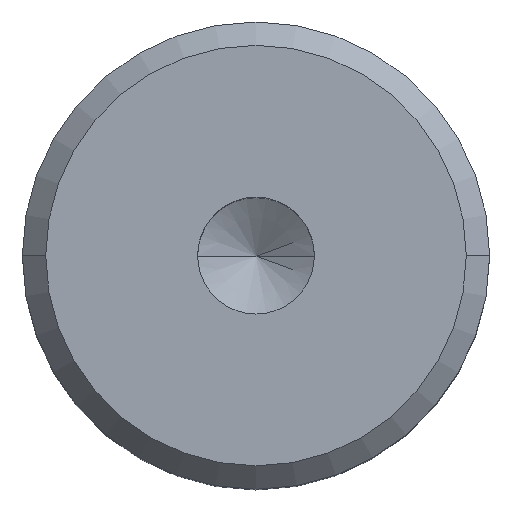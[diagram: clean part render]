
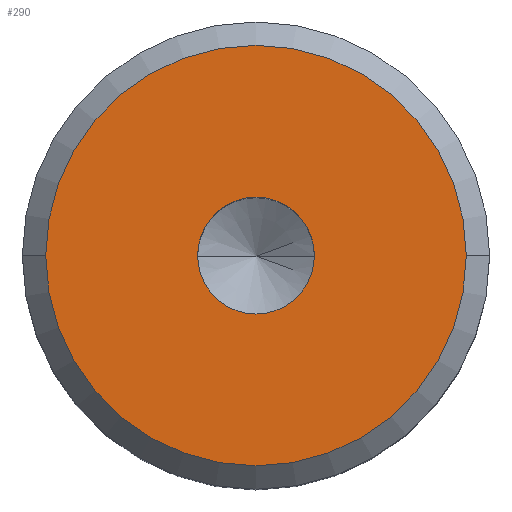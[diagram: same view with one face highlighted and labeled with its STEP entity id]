
A CAD part, top view. The second image highlights one B-rep face of the part: STEP entity #290.
In plain terms, the highlighted planar face has unit normal (0, 0, 1).
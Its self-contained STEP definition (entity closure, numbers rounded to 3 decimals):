
#1 = AXIS2_PLACEMENT_3D ( 'NONE', #427, #349, #261 ) ;
#8 = AXIS2_PLACEMENT_3D ( 'NONE', #299, #302, #196 ) ;
#22 = DIRECTION ( 'NONE',  ( 0., 0., 1. ) ) ;
#30 = CIRCLE ( 'NONE', #1, 9. ) ;
#34 = CARTESIAN_POINT ( 'NONE',  ( 9., 0., 20. ) ) ;
#49 = CARTESIAN_POINT ( 'NONE',  ( 0., 0., 20. ) ) ;
#105 = EDGE_LOOP ( 'NONE', ( #313, #358 ) ) ;
#106 = EDGE_CURVE ( 'NONE', #418, #399, #326, .T. ) ;
#136 = ORIENTED_EDGE ( 'NONE', *, *, #106, .F. ) ;
#139 = PLANE ( 'NONE',  #169 ) ;
#153 = CARTESIAN_POINT ( 'NONE',  ( 2.5, 0., 20. ) ) ;
#168 = ORIENTED_EDGE ( 'NONE', *, *, #297, .F. ) ;
#169 = AXIS2_PLACEMENT_3D ( 'NONE', #338, #22, #217 ) ;
#187 = FACE_BOUND ( 'NONE', #214, .T. ) ;
#196 = DIRECTION ( 'NONE',  ( -1., 0., 0. ) ) ;
#214 = EDGE_LOOP ( 'NONE', ( #136, #168 ) ) ;
#217 = DIRECTION ( 'NONE',  ( 1., 0., 0. ) ) ;
#242 = DIRECTION ( 'NONE',  ( 1., 0., 0. ) ) ;
#248 = DIRECTION ( 'NONE',  ( 0., 0., 1. ) ) ;
#254 = DIRECTION ( 'NONE',  ( 1., 0., 0. ) ) ;
#261 = DIRECTION ( 'NONE',  ( -1., 0., 0. ) ) ;
#290 = ADVANCED_FACE ( 'NONE', ( #187, #342 ), #139, .T. ) ;
#291 = DIRECTION ( 'NONE',  ( 0., 0., 1. ) ) ;
#297 = EDGE_CURVE ( 'NONE', #399, #418, #457, .T. ) ;
#299 = CARTESIAN_POINT ( 'NONE',  ( 0., 0., 20. ) ) ;
#302 = DIRECTION ( 'NONE',  ( 0., 0., -1. ) ) ;
#313 = ORIENTED_EDGE ( 'NONE', *, *, #363, .F. ) ;
#326 = CIRCLE ( 'NONE', #397, 2.5 ) ;
#338 = CARTESIAN_POINT ( 'NONE',  ( -11.7, -18.706, 20. ) ) ;
#342 = FACE_OUTER_BOUND ( 'NONE', #105, .T. ) ;
#349 = DIRECTION ( 'NONE',  ( 0., 0., -1. ) ) ;
#358 = ORIENTED_EDGE ( 'NONE', *, *, #414, .F. ) ;
#363 = EDGE_CURVE ( 'NONE', #465, #425, #365, .T. ) ;
#365 = CIRCLE ( 'NONE', #8, 9. ) ;
#388 = CARTESIAN_POINT ( 'NONE',  ( -2.5, 0., 20. ) ) ;
#397 = AXIS2_PLACEMENT_3D ( 'NONE', #49, #248, #242 ) ;
#399 = VERTEX_POINT ( 'NONE', #388 ) ;
#414 = EDGE_CURVE ( 'NONE', #425, #465, #30, .T. ) ;
#417 = CARTESIAN_POINT ( 'NONE',  ( 0., 0., 20. ) ) ;
#418 = VERTEX_POINT ( 'NONE', #153 ) ;
#425 = VERTEX_POINT ( 'NONE', #470 ) ;
#427 = CARTESIAN_POINT ( 'NONE',  ( 0., 0., 20. ) ) ;
#457 = CIRCLE ( 'NONE', #476, 2.5 ) ;
#465 = VERTEX_POINT ( 'NONE', #34 ) ;
#470 = CARTESIAN_POINT ( 'NONE',  ( -9., 0., 20. ) ) ;
#476 = AXIS2_PLACEMENT_3D ( 'NONE', #417, #291, #254 ) ;
